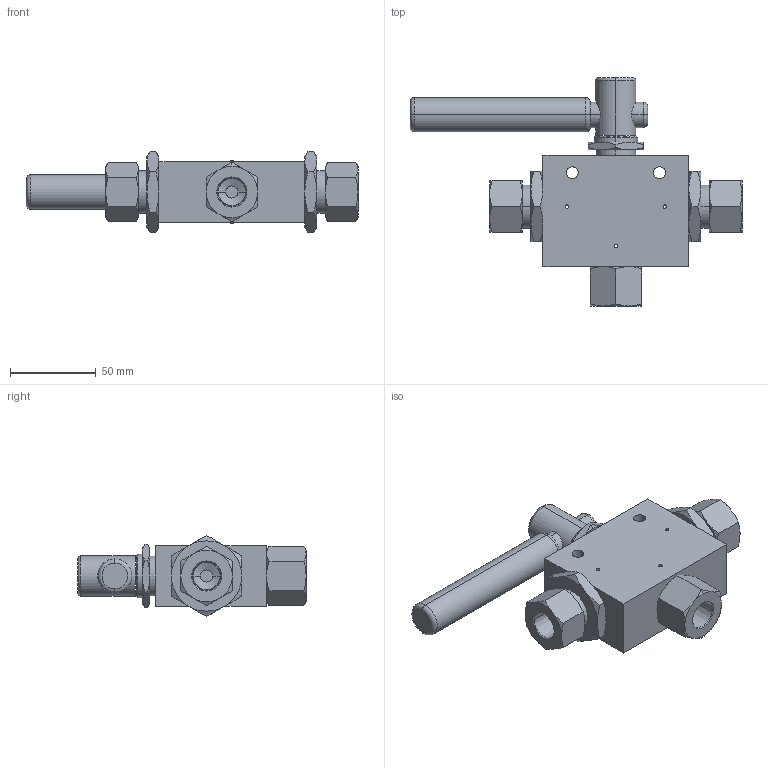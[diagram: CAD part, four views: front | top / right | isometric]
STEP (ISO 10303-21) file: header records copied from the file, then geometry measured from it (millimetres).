
FILE_DESCRIPTION (( 'STEP AP203' ), '1' );
FILE_NAME ('BVP05S06-3-180.STEP', '2022-04-12T10:52:27', ( '' ), ( '' ), 'SwSTEP 2.0', 'SolidWorks 2020', '' );
FILE_SCHEMA (( 'CONFIG_CONTROL_DESIGN' ));
Length unit declared in the file: millimetre
Products named in the file (1): BVP05S06-3-180
Bounding box: 193.5 x 133 x 47.34 mm (x, y, z)
Volume: 307308 mm3; surface area: 49609.5 mm2
Topology: 1 solids, 1 shells, 207 faces, 462 edges, 272 vertices
Faces by surface type: cone 96, plane 65, cylinder 38, torus 8
Entity records: 6621 total; most frequent: CARTESIAN_POINT 2098, ORIENTED_EDGE 924, DIRECTION 918, EDGE_CURVE 462, AXIS2_PLACEMENT_3D 400, VERTEX_POINT 272, EDGE_LOOP 236, ADVANCED_FACE 207
